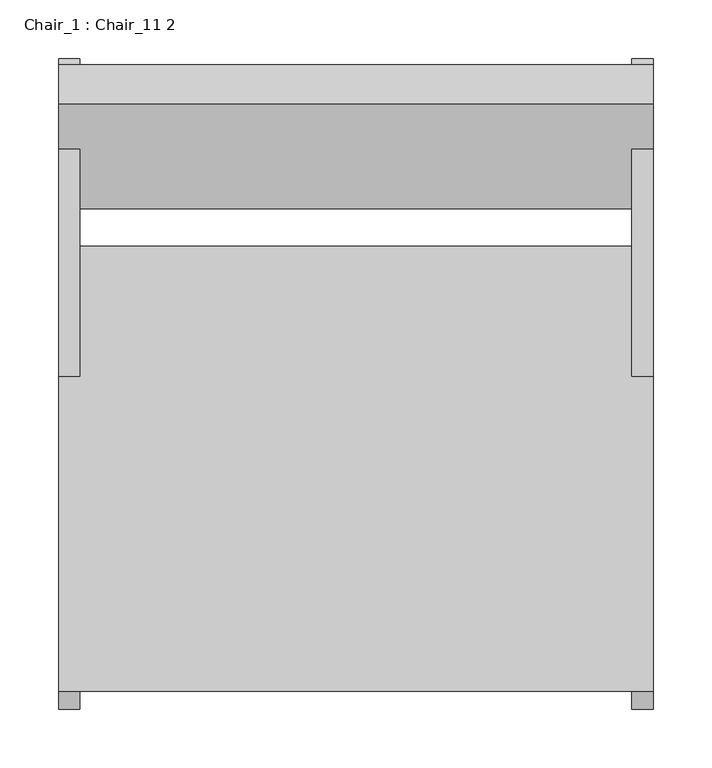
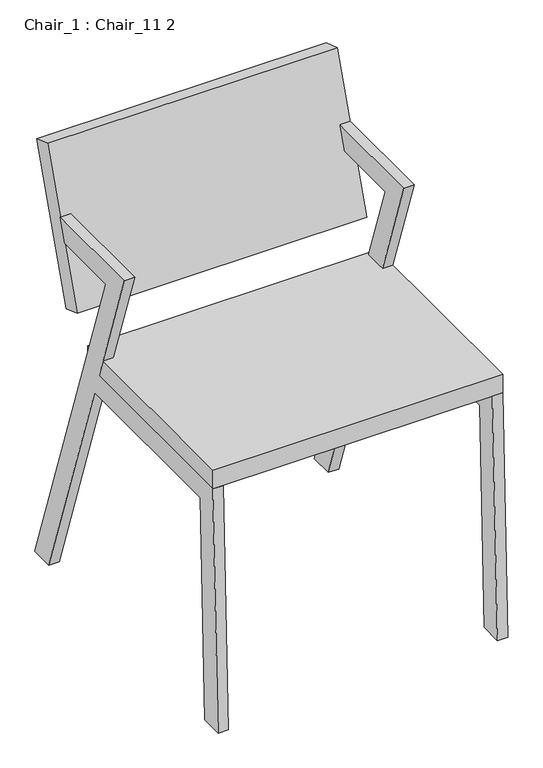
"""IFC4 building model written with IfcOpenShell, lengths in millimetres: furniture geometry, Chair_1 : Chair_11 2."""

from ifc_helpers import new_model, si_unit, frame, origin, place, context, project, spatial, polyline, outline, extrude, source, transform, mapped, element, save


def chair_1_chair_11_2_04599828(model_context):
    return source(origin(), model_context, "Body", "SweptSolid", [
        extrude(outline(polyline([(62.4788145, 625.1318884), (277.7289856, 0.0), (235.4241584, 0.0), (96.7777593, 402.6583803), (-223.6434634, 402.6583803), (-237.7046039, 0.0), (-277.7289856, 0.0), (-262.2710144, 442.6583803), (83.0046548, 442.6583803), (6.4008827, 665.1318884), (200.2748468, 665.1318884), (186.5017423, 625.1318884), (62.4788145, 625.1318884)])), frame((-253.7553525, 0.0, 0.0), z_axis=(1.0, 0.0, 0.0), x_axis=(0.0, 1.0, 0.0)), (0.0, 0.0, 1.0), 18.0611925),
        extrude(outline(polyline([(62.4788145, 625.1318884), (277.7289856, 0.0), (235.4241584, 0.0), (96.7777593, 402.6583803), (-223.6434634, 402.6583803), (-237.7046039, 0.0), (-277.7289856, 0.0), (-262.2710144, 442.6583803), (83.0046548, 442.6583803), (6.4008827, 665.1318884), (200.2748468, 665.1318884), (186.5017423, 625.1318884), (62.4788145, 625.1318884)])), frame((235.69416, 0.0, 0.0), z_axis=(1.0, 0.0, 0.0), x_axis=(0.0, 1.0, 0.0)), (0.0, 0.0, 1.0), 18.0611925),
        extrude(outline(polyline([(253.7553525, 117.7289856), (253.7553525, -262.2710144), (-253.7553525, -262.2710144), (-253.7553525, 117.7289856), (253.7553525, 117.7289856)])), frame((0.0, 0.0, 442.6583803), z_axis=(0.0, 0.0, 1.0), x_axis=(1.0, 0.0, 0.0)), (0.0, 0.0, 1.0), 35.0),
        extrude(outline(polyline([(0.0, -35.0), (0.0, 0.0), (507.510705, 0.0), (507.510705, -35.0), (0.0, -35.0)])), frame((253.7553525, 149.6855255, 518.2098312), z_axis=(0.0, 0.32556815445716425, 0.9455185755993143), x_axis=(-1.0, 0.0, 0.0)), (0.0, 0.0, 1.0), 275.0),
    ])


if __name__ == "__main__":
    model = new_model("IFC4")
    model_context = context("Model", 3, world=origin())
    ifc_project = project(units=[si_unit("LENGTHUNIT", "METRE", prefix="MILLI")], contexts=[model_context])
    site = spatial("IfcSite", under=ifc_project)
    building = spatial("IfcBuilding", under=site)
    placement = place(None, origin())
    chair_1_chair_11_2_shape = chair_1_chair_11_2_04599828(model_context)
    element("IfcFurniture", 1, ObjectType="Chair_1 : Chair_11 2", at=placement, inside=building, context=model_context, shape_type="MappedRepresentation", body=[
        mapped(chair_1_chair_11_2_shape, transform((0.0, 0.0, 0.0), x_axis=(1.0, 0.0, 0.0), y_axis=(0.0, 1.0, 0.0), z_axis=(0.0, 0.0, 1.0))),
    ])
    save(model, "model.ifc")
